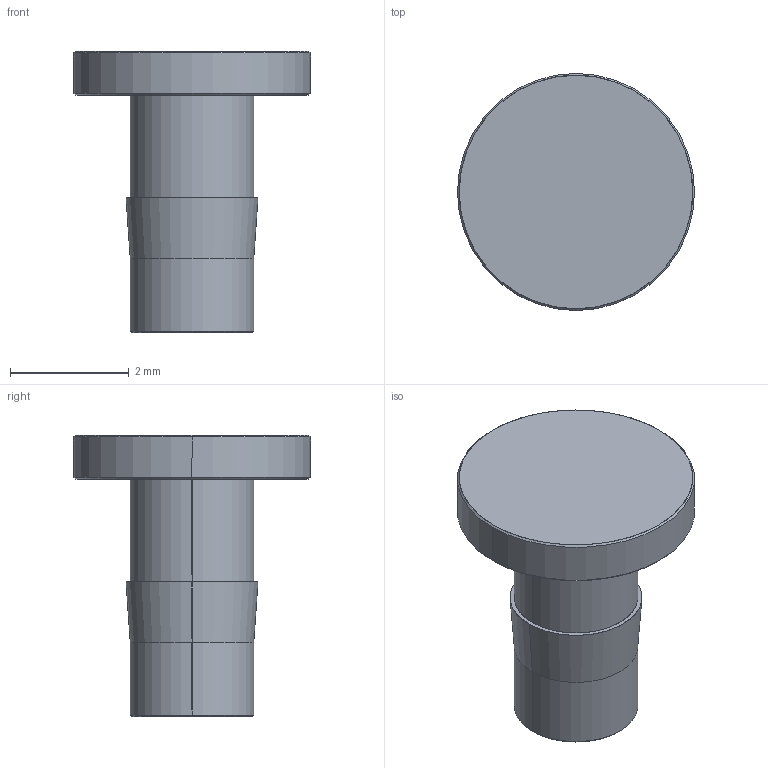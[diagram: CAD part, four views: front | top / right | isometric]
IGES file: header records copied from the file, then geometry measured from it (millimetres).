
Start section: SolidWorks IGES file using analytic representation for surfaces
Global section: file name: \\CODA-VM-SBS\RedirectedFolders\georged\My Documents\CODA CAD FILES\INTERFACING COMPONENTS\CONTACT LANDS\IPP2N.IGS; native system: SolidWorks 2022; preprocessor: SolidWorks 2022; author: GeorgeD; date: 240131.093457; units: millimetre
Bounding box: 3.99 x 3.99 x 4.74 mm (x, y, z)
Surface area: 60.6 mm2 (no closed solid volume)
Topology: 0 solids, 0 shells, 18 faces, 252 edges, 252 vertices
Faces by surface type: revolution 14, bspline 4
